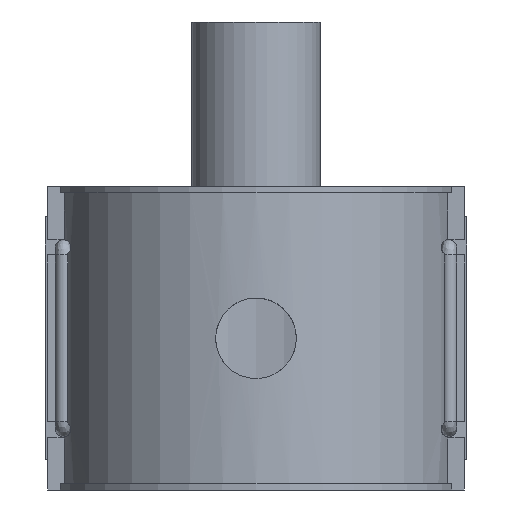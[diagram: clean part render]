
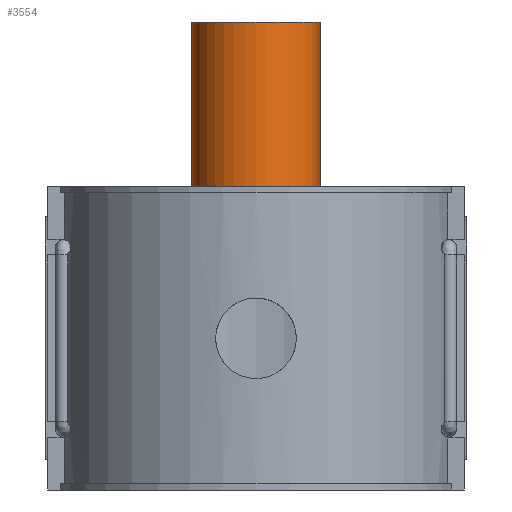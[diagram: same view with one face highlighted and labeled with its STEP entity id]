
A CAD part, front view. The second image highlights one B-rep face of the part: STEP entity #3554.
In plain terms, the highlighted cylindrical face has radius 25 mm (diameter 50 mm), a full revolution.
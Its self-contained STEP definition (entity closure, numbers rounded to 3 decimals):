
#323=CIRCLE('',#3899,25.);
#324=CIRCLE('',#3900,25.);
#325=CIRCLE('',#3901,25.);
#326=CIRCLE('',#3902,25.);
#533=FACE_OUTER_BOUND('',#759,.T.);
#759=EDGE_LOOP('',(#3284,#3285,#3286,#3287,#3288,#3289));
#1067=LINE('',#7299,#1371);
#1371=VECTOR('',#4856,25.);
#1763=VERTEX_POINT('',#7294);
#1764=VERTEX_POINT('',#7295);
#1765=VERTEX_POINT('',#7298);
#1766=VERTEX_POINT('',#7300);
#2272=EDGE_CURVE('',#1763,#1764,#323,.T.);
#2273=EDGE_CURVE('',#1764,#1763,#324,.T.);
#2274=EDGE_CURVE('',#1764,#1765,#1067,.T.);
#2275=EDGE_CURVE('',#1765,#1766,#325,.T.);
#2276=EDGE_CURVE('',#1766,#1765,#326,.T.);
#3284=ORIENTED_EDGE('',*,*,#2272,.F.);
#3285=ORIENTED_EDGE('',*,*,#2273,.F.);
#3286=ORIENTED_EDGE('',*,*,#2274,.T.);
#3287=ORIENTED_EDGE('',*,*,#2275,.T.);
#3288=ORIENTED_EDGE('',*,*,#2276,.T.);
#3289=ORIENTED_EDGE('',*,*,#2274,.F.);
#3355=CYLINDRICAL_SURFACE('',#3898,25.);
#3554=ADVANCED_FACE('',(#533),#3355,.T.);
#3898=AXIS2_PLACEMENT_3D('',#7293,#4850,#4851);
#3899=AXIS2_PLACEMENT_3D('',#7296,#4852,#4853);
#3900=AXIS2_PLACEMENT_3D('',#7297,#4854,#4855);
#3901=AXIS2_PLACEMENT_3D('',#7301,#4857,#4858);
#3902=AXIS2_PLACEMENT_3D('',#7302,#4859,#4860);
#4850=DIRECTION('center_axis',(0.,0.,1.));
#4851=DIRECTION('ref_axis',(0.,-1.,0.));
#4852=DIRECTION('center_axis',(0.,0.,1.));
#4853=DIRECTION('ref_axis',(1.,0.,0.));
#4854=DIRECTION('center_axis',(0.,0.,1.));
#4855=DIRECTION('ref_axis',(1.,0.,0.));
#4856=DIRECTION('',(0.,0.,-1.));
#4857=DIRECTION('center_axis',(0.,0.,1.));
#4858=DIRECTION('ref_axis',(1.,0.,0.));
#4859=DIRECTION('center_axis',(0.,0.,1.));
#4860=DIRECTION('ref_axis',(1.,0.,0.));
#7293=CARTESIAN_POINT('Origin',(0.,126.5,61.5));
#7294=CARTESIAN_POINT('',(0.,101.5,123.));
#7295=CARTESIAN_POINT('',(0.,151.5,123.));
#7296=CARTESIAN_POINT('Origin',(0.,126.5,123.));
#7297=CARTESIAN_POINT('Origin',(0.,126.5,123.));
#7298=CARTESIAN_POINT('',(0.,151.5,0.));
#7299=CARTESIAN_POINT('',(0.,151.5,61.5));
#7300=CARTESIAN_POINT('',(0.,101.5,0.));
#7301=CARTESIAN_POINT('Origin',(0.,126.5,0.));
#7302=CARTESIAN_POINT('Origin',(0.,126.5,0.));
